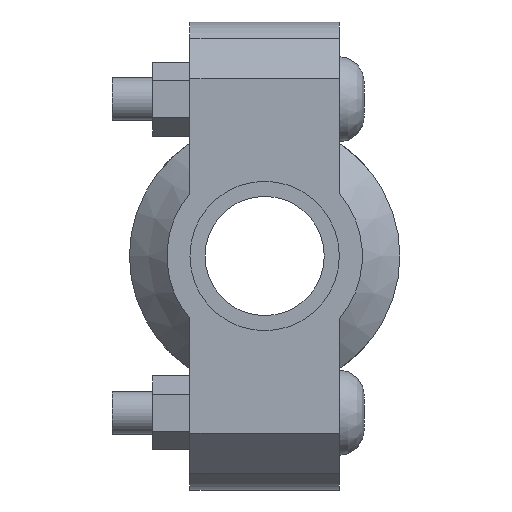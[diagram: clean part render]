
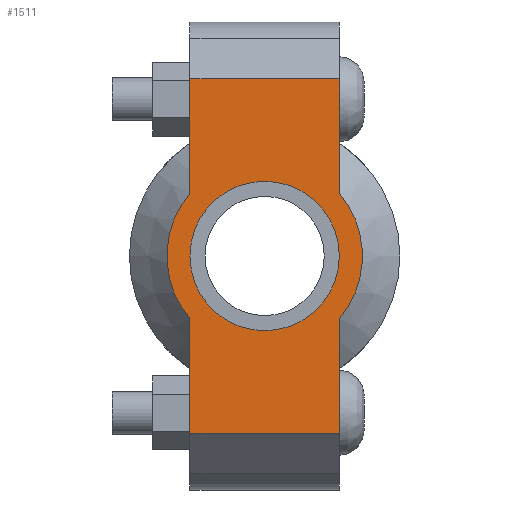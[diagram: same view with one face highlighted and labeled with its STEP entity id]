
A CAD part, left-side view. The second image highlights one B-rep face of the part: STEP entity #1511.
In plain terms, the highlighted planar face has unit normal (-1, 0, 0) as drawn and (0, 0, 1) by its records, which use the part's own axes.
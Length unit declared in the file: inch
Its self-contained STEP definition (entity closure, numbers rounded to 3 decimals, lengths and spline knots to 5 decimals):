
#122=LINE('',#2595,#217);
#137=LINE('',#2654,#232);
#145=LINE('',#2684,#240);
#147=LINE('',#2687,#242);
#148=LINE('',#2692,#243);
#149=LINE('',#2693,#244);
#217=VECTOR('',#2101,0.3937);
#232=VECTOR('',#2136,0.3937);
#240=VECTOR('',#2156,0.3937);
#242=VECTOR('',#2160,0.3937);
#243=VECTOR('',#2165,0.3937);
#244=VECTOR('',#2166,0.3937);
#304=FACE_BOUND('',#463,.T.);
#364=FACE_OUTER_BOUND('',#462,.T.);
#462=EDGE_LOOP('',(#1206,#1207,#1208,#1209,#1210,#1211,#1212,#1213));
#463=EDGE_LOOP('',(#1214));
#568=CIRCLE('',#1774,0.86);
#569=CIRCLE('',#1775,0.86);
#570=CIRCLE('',#1776,0.6575);
#677=VERTEX_POINT('',#2592);
#678=VERTEX_POINT('',#2594);
#699=VERTEX_POINT('',#2649);
#700=VERTEX_POINT('',#2653);
#709=VERTEX_POINT('',#2679);
#710=VERTEX_POINT('',#2683);
#711=VERTEX_POINT('',#2689);
#712=VERTEX_POINT('',#2691);
#713=VERTEX_POINT('',#2695);
#847=EDGE_CURVE('',#678,#677,#122,.T.);
#872=EDGE_CURVE('',#700,#699,#137,.T.);
#885=EDGE_CURVE('',#710,#709,#145,.T.);
#887=EDGE_CURVE('',#710,#677,#147,.T.);
#888=EDGE_CURVE('',#709,#711,#568,.T.);
#889=EDGE_CURVE('',#711,#712,#148,.T.);
#890=EDGE_CURVE('',#700,#712,#149,.T.);
#891=EDGE_CURVE('',#699,#678,#569,.T.);
#892=EDGE_CURVE('',#713,#713,#570,.T.);
#1206=ORIENTED_EDGE('',*,*,#887,.F.);
#1207=ORIENTED_EDGE('',*,*,#885,.T.);
#1208=ORIENTED_EDGE('',*,*,#888,.T.);
#1209=ORIENTED_EDGE('',*,*,#889,.T.);
#1210=ORIENTED_EDGE('',*,*,#890,.F.);
#1211=ORIENTED_EDGE('',*,*,#872,.T.);
#1212=ORIENTED_EDGE('',*,*,#891,.T.);
#1213=ORIENTED_EDGE('',*,*,#847,.T.);
#1214=ORIENTED_EDGE('',*,*,#892,.T.);
#1363=PLANE('',#1773);
#1511=ADVANCED_FACE('',(#364,#304),#1363,.T.);
#1773=AXIS2_PLACEMENT_3D('',#2688,#2161,#2162);
#1774=AXIS2_PLACEMENT_3D('',#2690,#2163,#2164);
#1775=AXIS2_PLACEMENT_3D('',#2694,#2167,#2168);
#1776=AXIS2_PLACEMENT_3D('',#2696,#2169,#2170);
#2101=DIRECTION('',(1.,0.,0.));
#2136=DIRECTION('',(1.,0.,0.));
#2156=DIRECTION('',(-1.,0.,0.));
#2160=DIRECTION('',(0.,-1.,0.));
#2161=DIRECTION('center_axis',(0.,0.,1.));
#2162=DIRECTION('ref_axis',(-1.,0.,0.));
#2163=DIRECTION('center_axis',(0.,0.,1.));
#2164=DIRECTION('ref_axis',(1.,0.,0.));
#2165=DIRECTION('',(-1.,0.,0.));
#2166=DIRECTION('',(0.,1.,0.));
#2167=DIRECTION('center_axis',(0.,0.,1.));
#2168=DIRECTION('ref_axis',(1.,0.,0.));
#2169=DIRECTION('center_axis',(0.,0.,-1.));
#2170=DIRECTION('ref_axis',(1.,0.,0.));
#2592=CARTESIAN_POINT('',(1.56,-0.6575,0.875));
#2594=CARTESIAN_POINT('',(0.55434,-0.6575,0.875));
#2595=CARTESIAN_POINT('',(-2.06,-0.6575,0.875));
#2649=CARTESIAN_POINT('',(-0.55434,-0.6575,0.875));
#2653=CARTESIAN_POINT('',(-1.56,-0.6575,0.875));
#2654=CARTESIAN_POINT('',(-2.06,-0.6575,0.875));
#2679=CARTESIAN_POINT('',(0.55434,0.6575,0.875));
#2683=CARTESIAN_POINT('',(1.56,0.6575,0.875));
#2684=CARTESIAN_POINT('',(2.06,0.6575,0.875));
#2687=CARTESIAN_POINT('',(1.56,-0.32875,0.875));
#2688=CARTESIAN_POINT('Origin',(0.,0.,
0.875));
#2689=CARTESIAN_POINT('',(-0.55434,0.6575,0.875));
#2690=CARTESIAN_POINT('Origin',(0.,0.,0.875));
#2691=CARTESIAN_POINT('',(-1.56,0.6575,0.875));
#2692=CARTESIAN_POINT('',(2.06,0.6575,0.875));
#2693=CARTESIAN_POINT('',(-1.56,0.32875,0.875));
#2694=CARTESIAN_POINT('Origin',(0.,0.,0.875));
#2695=CARTESIAN_POINT('',(-0.6575,0.,0.875));
#2696=CARTESIAN_POINT('Origin',(0.,0.,0.875));
